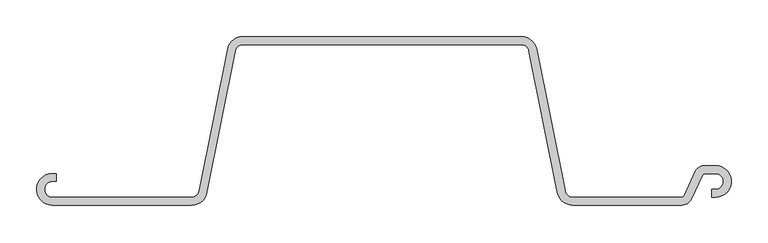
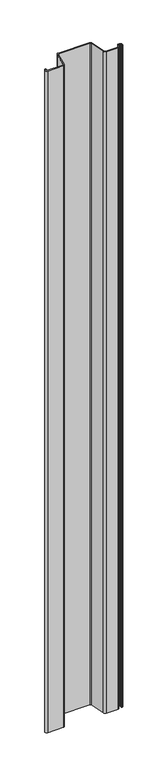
"""IFC4 building model written with IfcOpenShell, lengths in millimetres: proxy geometry, 鋼矢板10H型 : 鋼矢板10H型."""

from ifc_helpers import new_model, si_unit, point, frame, frame_2d, origin, place, context, project, spatial, polyline, circle_curve, trimmed, segment, composite_curve, outline, extrude, source, transform, mapped, element, save


def generic_models_5d25678b(model_context):
    return source(origin(), model_context, "Body", "SweptSolid", [
        extrude(outline(composite_curve([segment(trimmed(circle_curve(frame_2d((409.1972607, -101.1142857)), 13.8857143), [point((421.7819917, -106.9826421))], [point((409.1972607, -115.0))], False, "CARTESIAN"), True, "CONTINUOUS"), segment(polyline([(409.1972607, -115.0), (260.2008232, -115.0)]), True, "CONTINUOUS"), segment(trimmed(circle_curve(frame_2d((260.2008232, -93.4)), 21.6), [point((260.2008232, -115.0))], [point((239.0202806, -97.6361085))], False, "CARTESIAN"), True, "CONTINUOUS"), segment(polyline([(239.0202806, -97.6361085), (200.3894481, 95.5180543)]), True, "CONTINUOUS"), segment(trimmed(circle_curve(frame_2d((189.7991768, 93.4)), 10.8), [point((200.3894481, 95.5180543))], [point((189.7991768, 104.2))], True, "CARTESIAN"), True, "CONTINUOUS"), segment(polyline([(189.7991768, 104.2), (-189.7991768, 104.2)]), True, "CONTINUOUS"), segment(trimmed(circle_curve(frame_2d((-189.7991768, 93.4)), 10.8), [point((-189.7991768, 104.2))], [point((-200.3894481, 95.5180543))], True, "CARTESIAN"), True, "CONTINUOUS"), segment(polyline([(-200.3894481, 95.5180543), (-239.0202806, -97.6361085)]), True, "CONTINUOUS"), segment(trimmed(circle_curve(frame_2d((-260.2008232, -93.4)), 21.6), [point((-239.0202806, -97.6361085))], [point((-260.2008232, -115.0))], False, "CARTESIAN"), True, "CONTINUOUS"), segment(polyline([(-260.2008232, -115.0), (-450.0, -115.0)]), True, "CONTINUOUS"), segment(trimmed(circle_curve(frame_2d((-450.0, -93.4)), 21.6), [point((-450.0, -115.0))], [point((-450.0, -71.8))], False, "CARTESIAN"), True, "CONTINUOUS"), segment(polyline([(-450.0, -71.8), (-445.0, -71.8), (-445.0, -82.6), (-450.0, -82.6)]), True, "CONTINUOUS"), segment(trimmed(circle_curve(frame_2d((-450.0, -93.4)), 10.8), [point((-450.0, -82.6))], [point((-450.0, -104.2))], True, "CARTESIAN"), True, "CONTINUOUS"), segment(polyline([(-450.0, -104.2), (-260.2008232, -104.2)]), True, "CONTINUOUS"), segment(trimmed(circle_curve(frame_2d((-260.2008232, -93.4)), 10.8), [point((-260.2008232, -104.2))], [point((-249.6105519, -95.5180543))], True, "CARTESIAN"), True, "CONTINUOUS"), segment(polyline([(-249.6105519, -95.5180543), (-210.9797194, 97.6361085)]), True, "CONTINUOUS"), segment(trimmed(circle_curve(frame_2d((-189.7991768, 93.4)), 21.6), [point((-210.9797194, 97.6361085))], [point((-189.7991768, 115.0))], False, "CARTESIAN"), True, "CONTINUOUS"), segment(polyline([(-189.7991768, 115.0), (189.7991768, 115.0)]), True, "CONTINUOUS"), segment(trimmed(circle_curve(frame_2d((189.7991768, 93.4)), 21.6), [point((189.7991768, 115.0))], [point((210.9797194, 97.6361085))], False, "CARTESIAN"), True, "CONTINUOUS"), segment(polyline([(210.9797194, 97.6361085), (249.6105519, -95.5180543)]), True, "CONTINUOUS"), segment(trimmed(circle_curve(frame_2d((260.2008232, -93.4)), 10.8), [point((249.6105519, -95.5180543))], [point((260.2008232, -104.2))], True, "CARTESIAN"), True, "CONTINUOUS"), segment(polyline([(260.2008232, -104.2), (409.1972607, -104.2)]), True, "CONTINUOUS"), segment(trimmed(circle_curve(frame_2d((409.1972607, -101.1142857)), 3.0857143), [point((409.1972607, -104.2))], [point((411.9938676, -102.4183649))], True, "CARTESIAN"), True, "CONTINUOUS"), segment(polyline([(411.9938676, -102.4183649), (427.569013, -69.0173579)]), True, "CONTINUOUS"), segment(trimmed(circle_curve(frame_2d((440.153744, -74.8857143)), 13.8857143), [point((427.569013, -69.0173579))], [point((440.153744, -61.0))], False, "CARTESIAN"), True, "CONTINUOUS"), segment(polyline([(440.153744, -61.0), (455.0, -61.0)]), True, "CONTINUOUS"), segment(trimmed(circle_curve(frame_2d((455.0, -82.6)), 21.6), [point((455.0, -61.0))], [point((455.0, -104.2))], False, "CARTESIAN"), True, "CONTINUOUS"), segment(polyline([(455.0, -104.2), (450.0, -104.2), (450.0, -93.4), (455.0, -93.4)]), True, "CONTINUOUS"), segment(trimmed(circle_curve(frame_2d((455.0, -82.6)), 10.8), [point((455.0, -93.4))], [point((455.0, -71.8))], True, "CARTESIAN"), True, "CONTINUOUS"), segment(polyline([(455.0, -71.8), (440.153744, -71.8)]), True, "CONTINUOUS"), segment(trimmed(circle_curve(frame_2d((440.153744, -74.8857143)), 3.0857143), [point((440.153744, -71.8))], [point((437.3571371, -73.5816351))], True, "CARTESIAN"), True, "CONTINUOUS"), segment(polyline([(437.3571371, -73.5816351), (421.7819917, -106.9826421)]), True, "CONTINUOUS")], self_intersect=False)), frame((0.0, 0.0, -8500.0), z_axis=(0.0, 0.0, 1.0), x_axis=(1.0, 0.0, 0.0)), (0.0, 0.0, 1.0), 8500.0),
    ])


if __name__ == "__main__":
    model = new_model("IFC4")
    model_context = context("Model", 3, world=origin())
    ifc_project = project(units=[si_unit("LENGTHUNIT", "METRE", prefix="MILLI")], contexts=[model_context])
    site = spatial("IfcSite", under=ifc_project)
    building = spatial("IfcBuilding", under=site)
    placement = place(None, origin())
    generic_models_shape = generic_models_5d25678b(model_context)
    element("IfcBuildingElementProxy", 1, Name="鋼矢板10H型 : 鋼矢板10H型", ObjectType="鋼矢板10H型 : 鋼矢板10H型", at=placement, inside=building, context=model_context, shape_type="MappedRepresentation", body=[
        mapped(generic_models_shape, transform((0.0, 0.0, 0.0), x_axis=(1.0, 0.0, 0.0), y_axis=(0.0, 1.0, 0.0), z_axis=(0.0, 0.0, 1.0))),
    ])
    save(model, "model.ifc")
